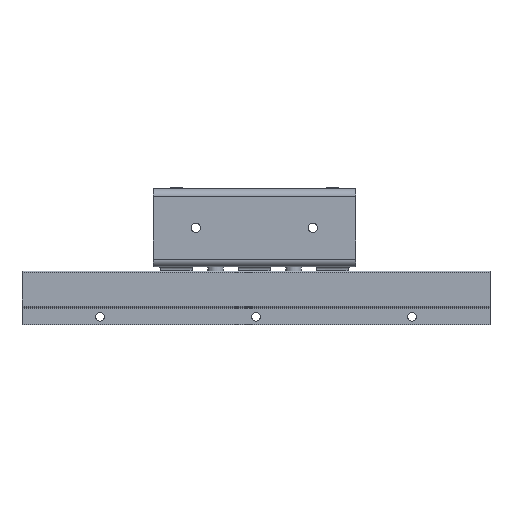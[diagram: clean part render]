
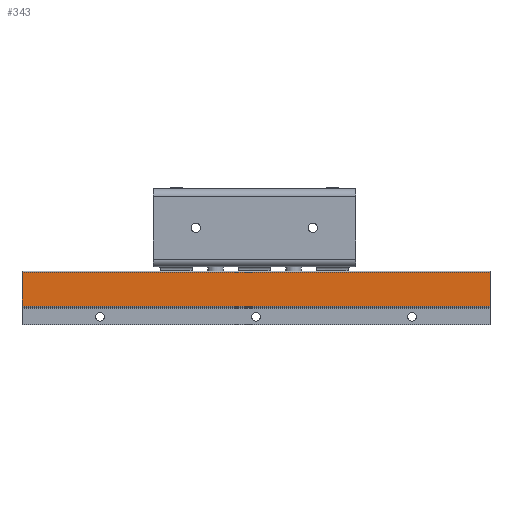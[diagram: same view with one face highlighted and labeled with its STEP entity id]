
A CAD part, top view. The second image highlights one B-rep face of the part: STEP entity #343.
In plain terms, the highlighted planar face has unit normal (0, 0, 1).
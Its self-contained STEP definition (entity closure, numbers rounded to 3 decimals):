
#285=CARTESIAN_POINT('',(300.0,11.8,26.5));
#286=VERTEX_POINT('',#285);
#294=CARTESIAN_POINT('',(0.0,11.8,26.5));
#295=VERTEX_POINT('',#294);
#296=CARTESIAN_POINT('',(0.0,11.8,26.5));
#297=DIRECTION('',(1.0,0.0,0.0));
#298=VECTOR('',#297,300.0);
#299=LINE('',#296,#298);
#300=EDGE_CURVE('',#295,#286,#299,.T.);
#313=CARTESIAN_POINT('',(0.0,11.8,26.5));
#314=DIRECTION('',(0.0,0.0,1.0));
#315=DIRECTION('',(1.0,0.0,0.0));
#316=AXIS2_PLACEMENT_3D('',#313,#314,#315);
#317=PLANE('',#316);
#318=CARTESIAN_POINT('',(300.0,33.5,26.5));
#319=VERTEX_POINT('',#318);
#320=CARTESIAN_POINT('',(300.0,11.8,26.5));
#321=DIRECTION('',(0.0,1.0,0.0));
#322=VECTOR('',#321,21.7);
#323=LINE('',#320,#322);
#324=EDGE_CURVE('',#286,#319,#323,.T.);
#325=ORIENTED_EDGE('',*,*,#324,.T.);
#326=CARTESIAN_POINT('',(0.0,33.5,26.5));
#327=VERTEX_POINT('',#326);
#328=CARTESIAN_POINT('',(0.0,33.5,26.5));
#329=DIRECTION('',(1.0,0.0,0.0));
#330=VECTOR('',#329,300.0);
#331=LINE('',#328,#330);
#332=EDGE_CURVE('',#327,#319,#331,.T.);
#333=ORIENTED_EDGE('',*,*,#332,.F.);
#334=CARTESIAN_POINT('',(0.0,33.5,26.5));
#335=DIRECTION('',(0.0,-1.0,0.0));
#336=VECTOR('',#335,21.7);
#337=LINE('',#334,#336);
#338=EDGE_CURVE('',#327,#295,#337,.T.);
#339=ORIENTED_EDGE('',*,*,#338,.T.);
#340=ORIENTED_EDGE('',*,*,#300,.T.);
#341=EDGE_LOOP('',(#325,#333,#339,#340));
#342=FACE_OUTER_BOUND('',#341,.T.);
#343=ADVANCED_FACE('',(#342),#317,.T.);
